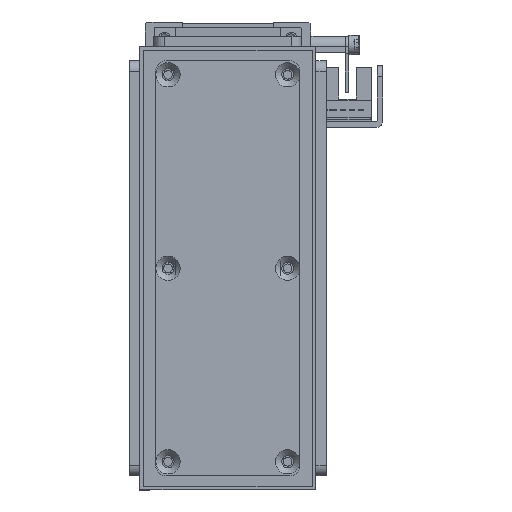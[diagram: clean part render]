
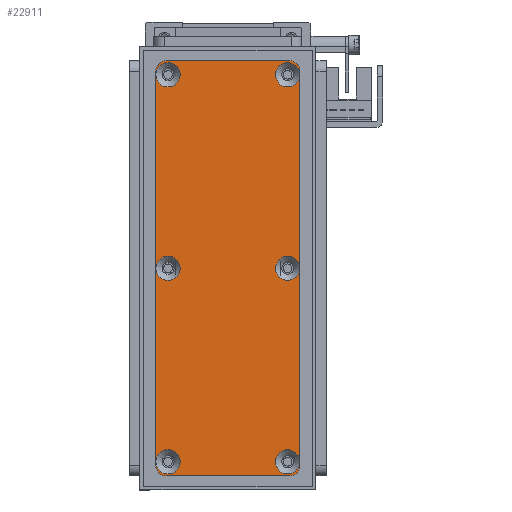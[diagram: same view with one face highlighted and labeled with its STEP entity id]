
A CAD part, front view. The second image highlights one B-rep face of the part: STEP entity #22911.
In plain terms, the highlighted planar face has unit normal (0, -1, 0) as drawn and (0, 0, 1) by its records, which use the part's own axes.
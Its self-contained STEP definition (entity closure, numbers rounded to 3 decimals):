
#761=FACE_BOUND('',#4335,.T.);
#762=FACE_BOUND('',#4336,.T.);
#763=FACE_BOUND('',#4337,.T.);
#764=FACE_BOUND('',#4338,.T.);
#765=FACE_BOUND('',#4339,.T.);
#766=FACE_BOUND('',#4340,.T.);
#1575=PLANE('',#25637);
#2747=FACE_OUTER_BOUND('',#4334,.T.);
#4334=EDGE_LOOP('',(#21075,#21076,#21077,#21078,#21079,#21080,#21081,#21082));
#4335=EDGE_LOOP('',(#21083));
#4336=EDGE_LOOP('',(#21084));
#4337=EDGE_LOOP('',(#21085));
#4338=EDGE_LOOP('',(#21086));
#4339=EDGE_LOOP('',(#21087));
#4340=EDGE_LOOP('',(#21088));
#6445=LINE('',#39883,#8554);
#6449=LINE('',#39895,#8558);
#6453=LINE('',#39907,#8562);
#6457=LINE('',#39917,#8566);
#8554=VECTOR('',#32062,10.);
#8558=VECTOR('',#32074,10.);
#8562=VECTOR('',#32086,10.);
#8566=VECTOR('',#32098,10.);
#9530=CIRCLE('',#25591,3.45);
#9533=CIRCLE('',#25596,3.45);
#9536=CIRCLE('',#25601,3.45);
#9539=CIRCLE('',#25606,3.45);
#9542=CIRCLE('',#25611,3.45);
#9545=CIRCLE('',#25616,3.45);
#9549=CIRCLE('',#25622,3.);
#9551=CIRCLE('',#25626,3.);
#9553=CIRCLE('',#25630,3.);
#9555=CIRCLE('',#25634,3.);
#11622=VERTEX_POINT('',#39811);
#11625=VERTEX_POINT('',#39821);
#11628=VERTEX_POINT('',#39831);
#11631=VERTEX_POINT('',#39841);
#11634=VERTEX_POINT('',#39851);
#11637=VERTEX_POINT('',#39861);
#11642=VERTEX_POINT('',#39874);
#11643=VERTEX_POINT('',#39876);
#11645=VERTEX_POINT('',#39882);
#11647=VERTEX_POINT('',#39888);
#11649=VERTEX_POINT('',#39894);
#11651=VERTEX_POINT('',#39900);
#11653=VERTEX_POINT('',#39906);
#11655=VERTEX_POINT('',#39912);
#14755=EDGE_CURVE('',#11622,#11622,#9530,.T.);
#14760=EDGE_CURVE('',#11625,#11625,#9533,.T.);
#14765=EDGE_CURVE('',#11628,#11628,#9536,.T.);
#14770=EDGE_CURVE('',#11631,#11631,#9539,.T.);
#14775=EDGE_CURVE('',#11634,#11634,#9542,.T.);
#14780=EDGE_CURVE('',#11637,#11637,#9545,.T.);
#14787=EDGE_CURVE('',#11643,#11642,#9549,.T.);
#14790=EDGE_CURVE('',#11645,#11643,#6445,.T.);
#14793=EDGE_CURVE('',#11647,#11645,#9551,.T.);
#14796=EDGE_CURVE('',#11649,#11647,#6449,.T.);
#14799=EDGE_CURVE('',#11651,#11649,#9553,.T.);
#14802=EDGE_CURVE('',#11653,#11651,#6453,.T.);
#14805=EDGE_CURVE('',#11655,#11653,#9555,.T.);
#14808=EDGE_CURVE('',#11642,#11655,#6457,.T.);
#21075=ORIENTED_EDGE('',*,*,#14808,.T.);
#21076=ORIENTED_EDGE('',*,*,#14805,.T.);
#21077=ORIENTED_EDGE('',*,*,#14802,.T.);
#21078=ORIENTED_EDGE('',*,*,#14799,.T.);
#21079=ORIENTED_EDGE('',*,*,#14796,.T.);
#21080=ORIENTED_EDGE('',*,*,#14793,.T.);
#21081=ORIENTED_EDGE('',*,*,#14790,.T.);
#21082=ORIENTED_EDGE('',*,*,#14787,.T.);
#21083=ORIENTED_EDGE('',*,*,#14755,.T.);
#21084=ORIENTED_EDGE('',*,*,#14760,.T.);
#21085=ORIENTED_EDGE('',*,*,#14765,.T.);
#21086=ORIENTED_EDGE('',*,*,#14770,.T.);
#21087=ORIENTED_EDGE('',*,*,#14775,.T.);
#21088=ORIENTED_EDGE('',*,*,#14780,.T.);
#22911=ADVANCED_FACE('',(#2747,#761,#762,#763,#764,#765,#766),#1575,.T.);
#25591=AXIS2_PLACEMENT_3D('',#39812,#31981,#31982);
#25596=AXIS2_PLACEMENT_3D('',#39822,#31993,#31994);
#25601=AXIS2_PLACEMENT_3D('',#39832,#32005,#32006);
#25606=AXIS2_PLACEMENT_3D('',#39842,#32017,#32018);
#25611=AXIS2_PLACEMENT_3D('',#39852,#32029,#32030);
#25616=AXIS2_PLACEMENT_3D('',#39862,#32041,#32042);
#25622=AXIS2_PLACEMENT_3D('',#39877,#32056,#32057);
#25626=AXIS2_PLACEMENT_3D('',#39889,#32068,#32069);
#25630=AXIS2_PLACEMENT_3D('',#39901,#32080,#32081);
#25634=AXIS2_PLACEMENT_3D('',#39913,#32092,#32093);
#25637=AXIS2_PLACEMENT_3D('',#39919,#32101,#32102);
#31981=DIRECTION('center_axis',(0.,0.,-1.));
#31982=DIRECTION('ref_axis',(1.,0.,0.));
#31993=DIRECTION('center_axis',(0.,0.,-1.));
#31994=DIRECTION('ref_axis',(1.,0.,0.));
#32005=DIRECTION('center_axis',(0.,0.,-1.));
#32006=DIRECTION('ref_axis',(1.,0.,0.));
#32017=DIRECTION('center_axis',(0.,0.,-1.));
#32018=DIRECTION('ref_axis',(1.,0.,0.));
#32029=DIRECTION('center_axis',(0.,0.,-1.));
#32030=DIRECTION('ref_axis',(1.,0.,0.));
#32041=DIRECTION('center_axis',(0.,0.,-1.));
#32042=DIRECTION('ref_axis',(1.,0.,0.));
#32056=DIRECTION('center_axis',(0.,0.,1.));
#32057=DIRECTION('ref_axis',(-1.,0.,0.));
#32062=DIRECTION('',(0.,1.,0.));
#32068=DIRECTION('center_axis',(0.,0.,1.));
#32069=DIRECTION('ref_axis',(0.,1.,0.));
#32074=DIRECTION('',(1.,0.,0.));
#32080=DIRECTION('center_axis',(0.,0.,1.));
#32081=DIRECTION('ref_axis',(1.,0.,0.));
#32086=DIRECTION('',(0.,-1.,0.));
#32092=DIRECTION('center_axis',(0.,0.,1.));
#32093=DIRECTION('ref_axis',(0.,-1.,0.));
#32098=DIRECTION('',(-1.,0.,0.));
#32101=DIRECTION('center_axis',(0.,0.,1.));
#32102=DIRECTION('ref_axis',(1.,0.,0.));
#39811=CARTESIAN_POINT('',(110.55,3.5,3.));
#39812=CARTESIAN_POINT('Origin',(114.,3.5,3.));
#39821=CARTESIAN_POINT('',(55.55,37.5,3.));
#39822=CARTESIAN_POINT('Origin',(59.,37.5,3.));
#39831=CARTESIAN_POINT('',(55.55,3.5,3.));
#39832=CARTESIAN_POINT('Origin',(59.,3.5,3.));
#39841=CARTESIAN_POINT('',(0.55,37.5,3.));
#39842=CARTESIAN_POINT('Origin',(4.,37.5,3.));
#39851=CARTESIAN_POINT('',(110.55,37.5,3.));
#39852=CARTESIAN_POINT('Origin',(114.,37.5,3.));
#39861=CARTESIAN_POINT('',(0.55,3.5,3.));
#39862=CARTESIAN_POINT('Origin',(4.,3.5,3.));
#39874=CARTESIAN_POINT('',(115.,41.,3.));
#39876=CARTESIAN_POINT('',(118.,38.,3.));
#39877=CARTESIAN_POINT('Origin',(115.,38.,3.));
#39882=CARTESIAN_POINT('',(118.,3.,3.));
#39883=CARTESIAN_POINT('',(118.,38.,3.));
#39888=CARTESIAN_POINT('',(115.,0.,3.));
#39889=CARTESIAN_POINT('Origin',(115.,3.,3.));
#39894=CARTESIAN_POINT('',(3.,0.,3.));
#39895=CARTESIAN_POINT('',(115.,0.,3.));
#39900=CARTESIAN_POINT('',(0.,3.,3.));
#39901=CARTESIAN_POINT('Origin',(3.,3.,3.));
#39906=CARTESIAN_POINT('',(0.,38.,3.));
#39907=CARTESIAN_POINT('',(0.,3.,3.));
#39912=CARTESIAN_POINT('',(3.,41.,3.));
#39913=CARTESIAN_POINT('Origin',(3.,38.,3.));
#39917=CARTESIAN_POINT('',(3.,41.,3.));
#39919=CARTESIAN_POINT('Origin',(59.,20.5,3.));
